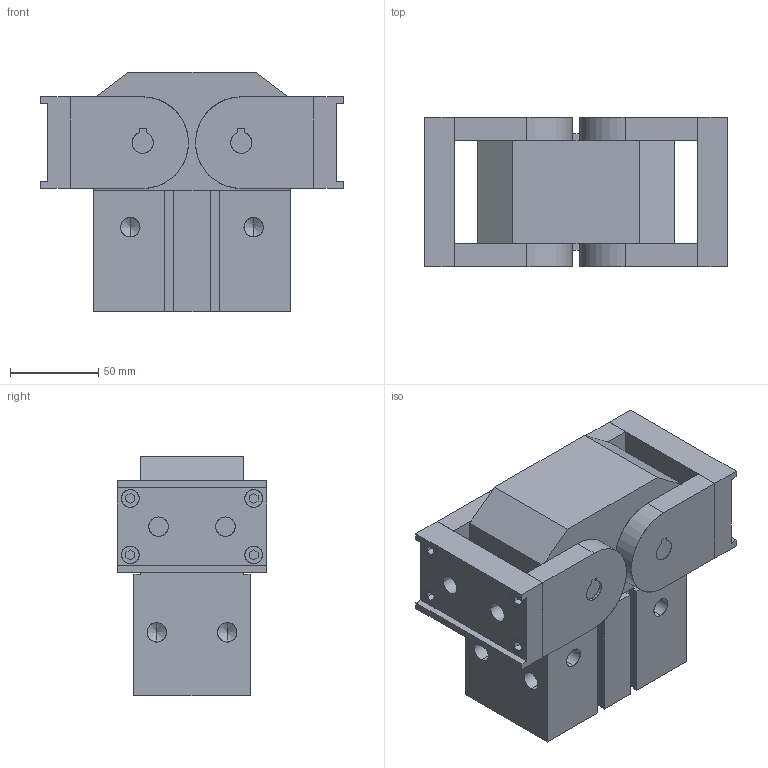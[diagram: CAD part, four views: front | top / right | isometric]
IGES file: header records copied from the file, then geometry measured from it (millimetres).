
Start section: SolidWorks IGES file using analytic representation for surfaces
Global section: file name: C:\Documents and Settings\1EDPI\Mes documents\Kevin 17.01.13\ghk\ghk50\GHK 50 open.IGS; native system: SolidWorks 2010; preprocessor: SolidWorks 2010; author: 1EDPI; date: 130304.105423; units: millimetre
Bounding box: 172 x 85 x 136 mm (x, y, z)
Surface area: 144248.2 mm2 (no closed solid volume)
Topology: 0 solids, 0 shells, 283 faces, 3500 edges, 3480 vertices
Faces by surface type: bspline 189, revolution 94
